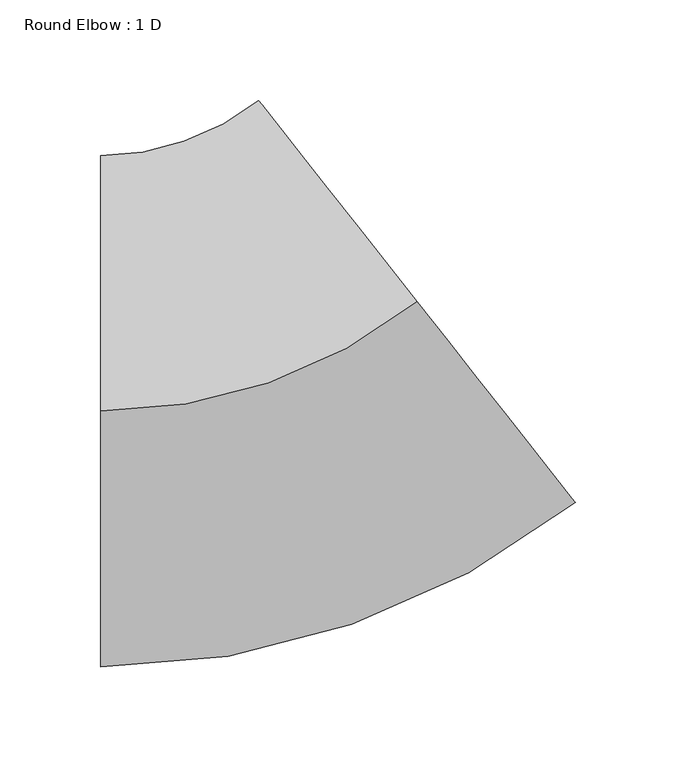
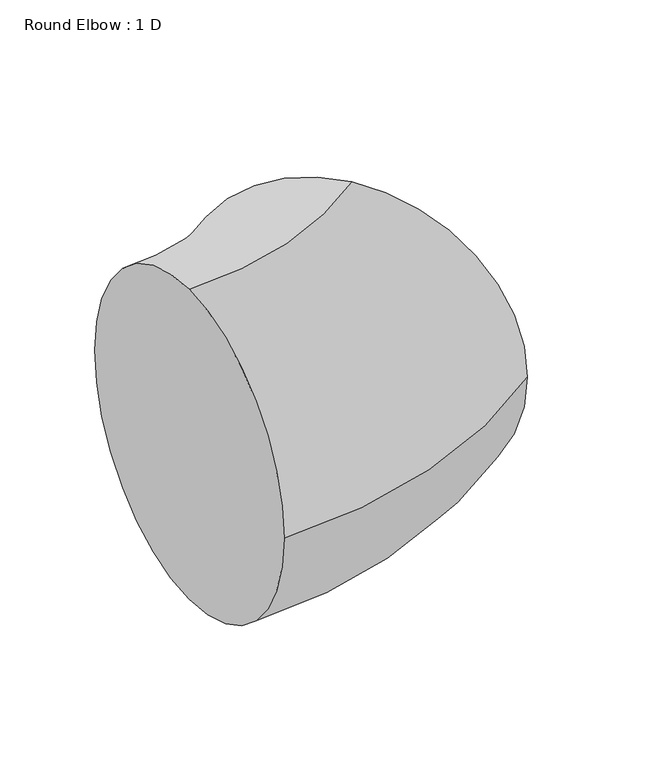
"""IFC4 building model written with IfcOpenShell, lengths in millimetres: duct fitting geometry, Round Elbow : 1 D."""

from ifc_helpers import new_model, si_unit, point, frame, origin, place, context, project, spatial, circle_curve, ellipse_curve, trimmed, source, transform, mapped, element, save
from ifc_brep_helpers import plane_surface, revolved_surface, advanced_brep


def round_elbow_1_d_f2406e55(model_context):
    return source(origin(), model_context, "Body", "AdvancedBrep", [
        advanced_brep(
        [(-87.9982427, 0.0, 127.0), (-87.9982427, 127.0, 0.0), (-87.9982427, 0.0, -127.0), (-87.9982427, -127.0, 0.0), (69.1376257, 54.4396862, 127.0), (147.70556, -45.3404707, 0.0), (69.1376257, 54.4396862, -127.0), (-9.4303085, 154.2198431, 0.0)],
        [
            (0, 1, circle_curve(frame((-87.9982427, 0.0, 0.0), z_axis=(-1.0, 0.0, 0.0), x_axis=(0.0, 1.0, 0.0)), 127.0)),
            (1, 2, circle_curve(frame((-87.9982427, 0.0, 0.0), z_axis=(-1.0, 0.0, 0.0), x_axis=(0.0, 1.0, 0.0)), 127.0)),
            (2, 3, circle_curve(frame((-87.9982427, 0.0, 0.0), z_axis=(-1.0, 0.0, 0.0), x_axis=(0.0, 1.0, 0.0)), 127.0)),
            (3, 0, circle_curve(frame((-87.9982427, 0.0, 0.0), z_axis=(-1.0, 0.0, 0.0), x_axis=(0.0, 1.0, 0.0)), 127.0)),
            (4, 5, circle_curve(frame((69.1376257, 54.4396862, 0.0), z_axis=(0.7856705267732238, 0.6186451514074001, 0.0), x_axis=(-0.6186451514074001, 0.7856705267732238, 0.0)), 127.0)),
            (5, 6, circle_curve(frame((69.1376257, 54.4396862, 0.0), z_axis=(0.7856705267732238, 0.6186451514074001, 0.0), x_axis=(-0.6186451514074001, 0.7856705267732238, 0.0)), 127.0)),
            (6, 7, circle_curve(frame((69.1376257, 54.4396862, 0.0), z_axis=(0.7856705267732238, 0.6186451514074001, 0.0), x_axis=(-0.6186451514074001, 0.7856705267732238, 0.0)), 127.0)),
            (7, 4, circle_curve(frame((69.1376257, 54.4396862, 0.0), z_axis=(0.7856705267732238, 0.6186451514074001, 0.0), x_axis=(-0.6186451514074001, 0.7856705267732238, 0.0)), 127.0)),
            (7, 1, circle_curve(frame((-87.9982427, 254.0, 0.0), z_axis=(0.0, 0.0, -1.0), x_axis=(0.0, -1.0, 0.0)), 127.0)),
            (0, 4, circle_curve(frame((-87.9982427, 254.0, 127.0), z_axis=(0.0, 0.0, 1.0), x_axis=(0.0, -1.0, 0.0)), 254.0)),
            (6, 2, circle_curve(frame((-87.9982427, 254.0, -127.0), z_axis=(0.0, 0.0, -1.0), x_axis=(0.0, -1.0, 0.0)), 254.0)),
            (5, 3, circle_curve(frame((-87.9982427, 254.0, 0.0), z_axis=(0.0, 0.0, -1.0), x_axis=(0.0, -1.0, 0.0)), 381.0)),
        ],
        [
            plane_surface(frame((-87.9982427, 0.0, 0.0), z_axis=(-1.0, 0.0, 0.0), x_axis=(0.0, 0.0, 1.0))),
            plane_surface(frame((69.1376257, 54.4396862, 0.0), z_axis=(0.7856705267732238, 0.6186451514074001, 0.0), x_axis=(0.0, 0.0, 1.0))),
            revolved_surface(trimmed(ellipse_curve(frame((-87.9982427, 0.0, 0.0), z_axis=(-1.0, 0.0, 0.0), x_axis=(0.0, 1.0, 0.0)), 127.0, 127.0), [point((-87.9982427, 0.0, 127.0))], [point((-87.9982427, 127.0, 0.0))], True, "CARTESIAN"), (-87.9982427, 254.0, 0.0), (0.0, 0.0, 1.0)),
            revolved_surface(trimmed(ellipse_curve(frame((-87.9982427, 0.0, 0.0), z_axis=(-1.0, 0.0, 0.0), x_axis=(0.0, 1.0, 0.0)), 127.0, 127.0), [point((-87.9982427, 127.0, 0.0))], [point((-87.9982427, 0.0, -127.0))], True, "CARTESIAN"), (-87.9982427, 254.0, 0.0), (0.0, 0.0, 1.0)),
            revolved_surface(trimmed(ellipse_curve(frame((-87.9982427, 0.0, 0.0), z_axis=(-1.0, 0.0, 0.0), x_axis=(0.0, 1.0, 0.0)), 127.0, 127.0), [point((-87.9982427, 0.0, -127.0))], [point((-87.9982427, -127.0, 0.0))], True, "CARTESIAN"), (-87.9982427, 254.0, 0.0), (0.0, 0.0, 1.0)),
            revolved_surface(trimmed(ellipse_curve(frame((-87.9982427, 0.0, 0.0), z_axis=(-1.0, 0.0, 0.0), x_axis=(0.0, 1.0, 0.0)), 127.0, 127.0), [point((-87.9982427, -127.0, 0.0))], [point((-87.9982427, 0.0, 127.0))], True, "CARTESIAN"), (-87.9982427, 254.0, 0.0), (0.0, 0.0, 1.0)),
        ],
        [
            (0, [[1, 2, 3, 4]]),
            (1, [[5, 6, 7, 8]]),
            (2, [[9, -1, 10, -8]]),
            (3, [[11, -2, -9, -7]]),
            (4, [[12, -3, -11, -6]]),
            (5, [[-10, -4, -12, -5]]),
        ],
    ),
    ])


if __name__ == "__main__":
    model = new_model("IFC4")
    model_context = context("Model", 3, world=origin())
    ifc_project = project(units=[si_unit("LENGTHUNIT", "METRE", prefix="MILLI")], contexts=[model_context])
    site = spatial("IfcSite", under=ifc_project)
    building = spatial("IfcBuilding", under=site)
    placement = place(None, origin())
    round_elbow_1_d_shape = round_elbow_1_d_f2406e55(model_context)
    element("IfcDuctFitting", 1, ObjectType="Round Elbow : 1 D", at=placement, inside=building, context=model_context, shape_type="MappedRepresentation", body=[
        mapped(round_elbow_1_d_shape, transform((0.0, 0.0, 0.0), x_axis=(1.0, 0.0, 0.0), y_axis=(0.0, 1.0, 0.0), z_axis=(0.0, 0.0, 1.0))),
    ])
    save(model, "model.ifc")
